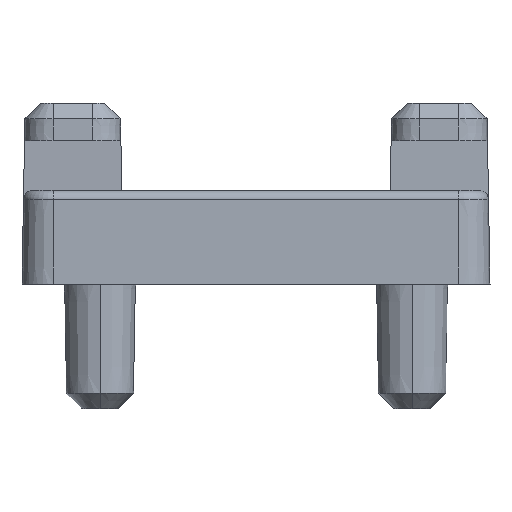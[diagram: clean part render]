
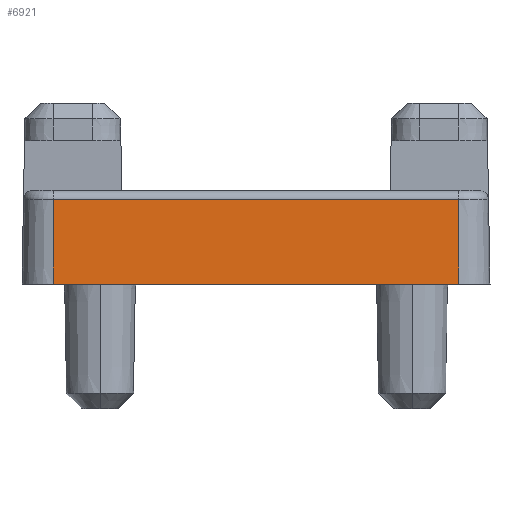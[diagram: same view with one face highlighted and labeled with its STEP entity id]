
A CAD part, front view. The second image highlights one B-rep face of the part: STEP entity #6921.
In plain terms, the highlighted planar face has unit normal (0, -1, 0.018).
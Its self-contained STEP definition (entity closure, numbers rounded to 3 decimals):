
#1246=DIRECTION('',(-1.,0.,0.));
#1247=VECTOR('',#1246,13.);
#1248=CARTESIAN_POINT('',(6.5,-20.953,2.705));
#1249=LINE('',#1248,#1247);
#1975=DIRECTION('',(1.,0.,0.));
#1976=VECTOR('',#1975,13.);
#1977=CARTESIAN_POINT('',(-6.5,-21.,0.));
#1978=LINE('',#1977,#1976);
#2213=DIRECTION('',(0.,0.017,1.));
#2214=VECTOR('',#2213,2.706);
#2215=CARTESIAN_POINT('',(6.5,-21.,0.));
#2216=LINE('',#2215,#2214);
#2220=DIRECTION('',(0.,-0.017,-1.));
#2221=VECTOR('',#2220,2.706);
#2222=CARTESIAN_POINT('',(-6.5,-20.953,
2.705));
#2223=LINE('',#2222,#2221);
#4877=CARTESIAN_POINT('',(6.5,-21.,0.));
#4879=VERTEX_POINT('',#4877);
#4887=CARTESIAN_POINT('',(-6.5,-21.,0.));
#4888=VERTEX_POINT('',#4887);
#4978=CARTESIAN_POINT('',(6.5,-20.953,2.705));
#4980=VERTEX_POINT('',#4978);
#5210=CARTESIAN_POINT('',(-6.5,-20.953,2.705));
#5211=VERTEX_POINT('',#5210);
#6909=CARTESIAN_POINT('',(9.7,-21.,0.));
#6910=DIRECTION('',(0.,1.,-0.017));
#6911=DIRECTION('',(-1.,0.,0.));
#6912=AXIS2_PLACEMENT_3D('',#6909,#6910,#6911);
#6913=PLANE('',#6912);
#6914=ORIENTED_EDGE('',*,*,#6191,.F.);
#6915=ORIENTED_EDGE('',*,*,#6904,.F.);
#6916=ORIENTED_EDGE('',*,*,#6793,.F.);
#6918=ORIENTED_EDGE('',*,*,#6917,.F.);
#6919=EDGE_LOOP('',(#6914,#6915,#6916,#6918));
#6920=FACE_OUTER_BOUND('',#6919,.F.);
#6191=EDGE_CURVE('',#4980,#5211,#1249,.T.);
#6793=EDGE_CURVE('',#4888,#4879,#1978,.T.);
#6904=EDGE_CURVE('',#4879,#4980,#2216,.T.);
#6917=EDGE_CURVE('',#5211,#4888,#2223,.T.);
#6921=ADVANCED_FACE('',(#6920),#6913,.F.);
